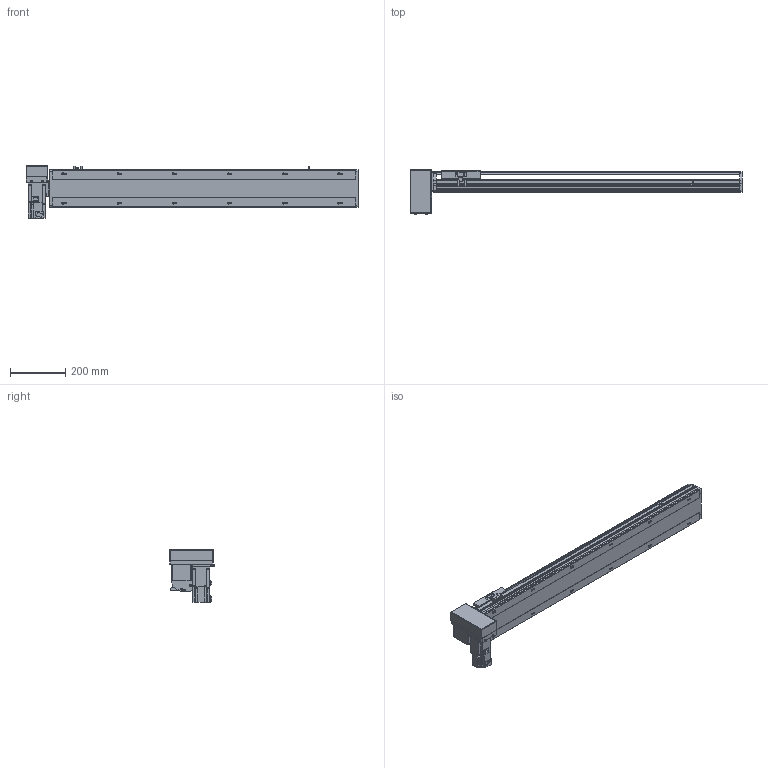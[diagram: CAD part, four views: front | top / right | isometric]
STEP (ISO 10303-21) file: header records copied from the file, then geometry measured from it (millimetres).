
FILE_DESCRIPTION( ( 'STEP AP214' ), '1' );
FILE_NAME( 'x:/temp/worker_1/temp/exporttempdir_5824_76_14OT5/format_0/PBS140-P40-S850-RD-T40-C1-N(0).stp', '2022-06-07T05:34:55', ( 'License CC BY-ND 4.0' ), ( 'CADENAS' ), ' ', 'PARTsolutions', ' ' );
FILE_SCHEMA( ( 'AUTOMOTIVE_DESIGN { 1 0 10303 214 1 1 1 1 }' ) );
Length unit declared in the file: millimetre
Products named in the file (7): PBS140-P40-S850-RD-T40-C1-N(0); _PBS140-S850()_body; _PBS140T-RD_motors; _T40-p1; _PBS140_sliser; _PBS140_plant; _PBS140_sensor
Assembly tree (8 placements, depth 2):
  PBS140-P40-S850-RD-T40-C1-N(0)
    _PBS140-S850()_body
    _PBS140T-RD_motors
    _T40-p1
    _PBS140_sliser
    _PBS140_plant
    _PBS140_sensor  x3
Bounding box: 1204 x 162 x 189.7 mm (x, y, z)
Volume: 5885635.7 mm3; surface area: 1035058 mm2
Topology: 8 solids, 8 shells, 1043 faces, 2756 edges, 1801 vertices
Faces by surface type: plane 680, cylinder 315, cone 38, sphere 8, torus 2
Full cylindrical faces by diameter (mm): 3.242 x4, 4 x2, 4.134 x4, 4.4 x8, 4.5 x2, 4.8 x4, 4.917 x20, 5.5 x7, 6 x2, 7 x14, 7.5 x8, 8 x12, 8.5 x4, 10.5 x12, 14 x1, 30 x2, 50 x2
Entity records: 38005 total; most frequent: CARTESIAN_POINT 5915, DIRECTION 5057, ORIENTED_EDGE 4792, EDGE_CURVE 2396, AXIS2_PLACEMENT_3D 1747, VERTEX_POINT 1653, LINE 1563, VECTOR 1563
